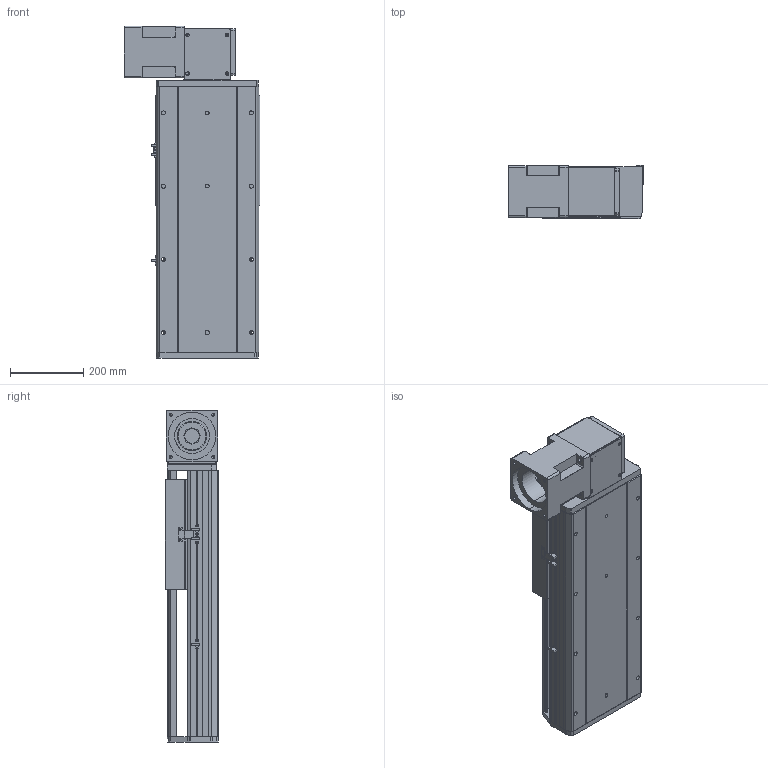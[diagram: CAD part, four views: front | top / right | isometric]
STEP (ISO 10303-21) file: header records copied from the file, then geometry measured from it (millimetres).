
FILE_DESCRIPTION (( 'STEP AP214' ), '1' );
FILE_NAME ('RTB28R-XX-300-BR-M100-XX-C4.STEP', '2025-12-22T01:06:35', ( '' ), ( '' ), 'SwSTEP 2.0', 'SolidWorks 2018', '' );
FILE_SCHEMA (( 'AUTOMOTIVE_DESIGN' ));
Length unit declared in the file: millimetre
Products named in the file (4): RTB28S-GY-004^RTB28R-XX-XX-BR-M100-XX-C4; RTB28S-GY-008^RTB28R-XX-XX-BR-M100-XX-C4; RTB28S-GY-011^RTB28R-XX-XX-BR-M100-XX-C4; RTB28R-XX-300-BR-M100-XX-C4
Assembly tree (3 placements, depth 2):
  RTB28R-XX-300-BR-M100-XX-C4
    RTB28S-GY-011^RTB28R-XX-XX-BR-M100-XX-C4
    RTB28S-GY-004^RTB28R-XX-XX-BR-M100-XX-C4
    RTB28S-GY-008^RTB28R-XX-XX-BR-M100-XX-C4
Bounding box: 370 x 145 x 907 mm (x, y, z)
Volume: 18595993.1 mm3; surface area: 1865399.1 mm2
Topology: 3 solids, 4 shells, 948 faces, 2490 edges, 1596 vertices
Faces by surface type: plane 448, cylinder 329, bspline 87, cone 80, torus 4
Entity records: 40258 total; most frequent: CARTESIAN_POINT 10645, ORIENTED_EDGE 4916, DIRECTION 4734, EDGE_CURVE 2458, AXIS2_PLACEMENT_3D 1601, VERTEX_POINT 1596, LINE 1532, VECTOR 1532
